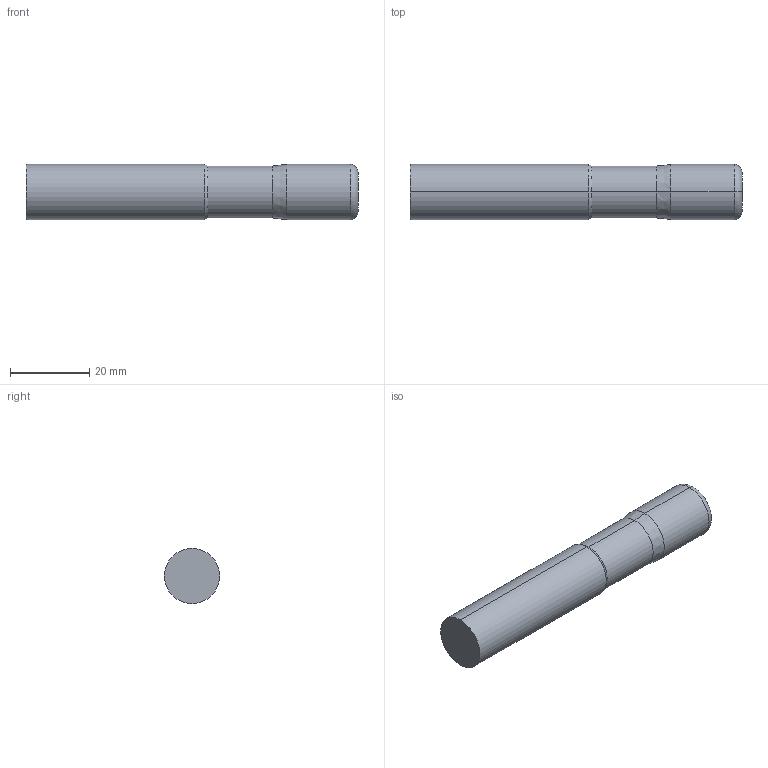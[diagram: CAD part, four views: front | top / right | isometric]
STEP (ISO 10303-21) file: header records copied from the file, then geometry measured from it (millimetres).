
FILE_DESCRIPTION (( 'STEP AP214' ), '1' );
FILE_NAME ('SSIRN514M-2.STEP', '2025-05-29T18:28:30', ( '' ), ( '' ), 'SwSTEP 2.0', 'SolidWorks 2023', '' );
FILE_SCHEMA (( 'AUTOMOTIVE_DESIGN' ));
Length unit declared in the file: millimetre
Products named in the file (3): SSI5 Metric CUTTING_SSIRN514M-2; SSI5 Metric SHANK_SSIRN514M-2; SSIRN514M-2
Assembly tree (2 placements, depth 2):
  SSIRN514M-2
    SSI5 Metric CUTTING_SSIRN514M-2
    SSI5 Metric SHANK_SSIRN514M-2
Bounding box: 84 x 14 x 14 mm (x, y, z)
Volume: 12550.1 mm3; surface area: 4226 mm2
Topology: 2 solids, 2 shells, 16 faces, 28 edges, 16 vertices
Faces by surface type: cylinder 6, plane 4, cone 4, torus 2
Entity records: 474 total; most frequent: DIRECTION 88, CARTESIAN_POINT 65, ORIENTED_EDGE 56, AXIS2_PLACEMENT_3D 39, EDGE_CURVE 28, CIRCLE 18, EDGE_LOOP 16, ADVANCED_FACE 16
